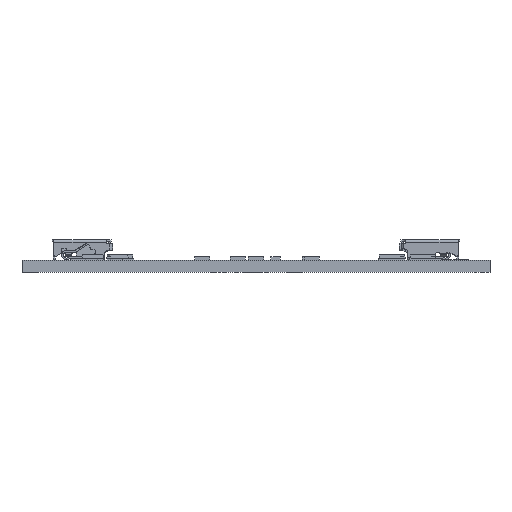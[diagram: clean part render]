
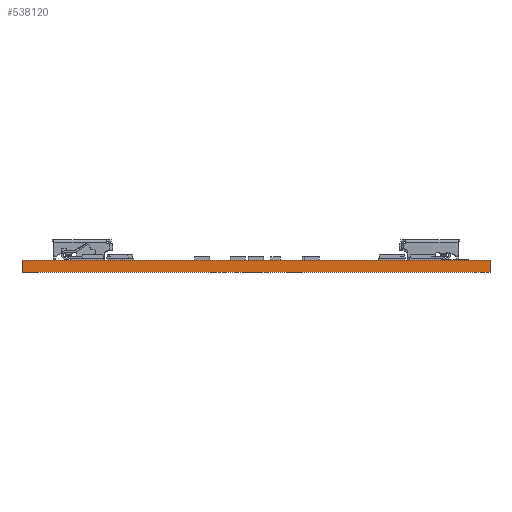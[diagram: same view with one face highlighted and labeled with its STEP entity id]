
A CAD part, front view. The second image highlights one B-rep face of the part: STEP entity #538120.
In plain terms, the highlighted planar face has unit normal (0, -1, 0).
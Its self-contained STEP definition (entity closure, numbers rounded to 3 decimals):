
#537440=CARTESIAN_POINT('',(511.048,98.911,0.));
#537450=VERTEX_POINT('',#537440);
#537500=CARTESIAN_POINT('',(511.048,98.911,0.));
#537510=DIRECTION('',(0.,0.,-1.));
#537520=VECTOR('',#537510,1.);
#537530=LINE('',#537500,#537520);
#537540=CARTESIAN_POINT('',(511.048,98.911,-1.6));
#537550=VERTEX_POINT('',#537540);
#537560=EDGE_CURVE('',#537450,#537550,#537530,.T.);
#537820=CARTESIAN_POINT('',(573.048,98.911,0.));
#537830=DIRECTION('',(0.,1.,0.));
#537840=DIRECTION('',(1.,-0.,0.));
#537850=AXIS2_PLACEMENT_3D('',#537820,#537830,#537840);
#537860=PLANE('',#537850);
#537870=CARTESIAN_POINT('',(573.048,98.911,0.));
#537880=DIRECTION('',(-1.,0.,0.));
#537890=VECTOR('',#537880,0.039);
#537900=LINE('',#537870,#537890);
#537910=CARTESIAN_POINT('',(573.048,98.911,0.));
#537920=VERTEX_POINT('',#537910);
#537930=EDGE_CURVE('',#537920,#537450,#537900,.T.);
#537940=ORIENTED_EDGE('',*,*,#537930,.T.);
#537950=CARTESIAN_POINT('',(573.048,98.911,0.));
#537960=DIRECTION('',(0.,0.,-1.));
#537970=VECTOR('',#537960,1.);
#537980=LINE('',#537950,#537970);
#537990=CARTESIAN_POINT('',(573.048,98.911,-1.6));
#538000=VERTEX_POINT('',#537990);
#538010=EDGE_CURVE('',#537920,#538000,#537980,.T.);
#538020=ORIENTED_EDGE('',*,*,#538010,.F.);
#538030=CARTESIAN_POINT('',(573.048,98.911,-1.6));
#538040=DIRECTION('',(-1.,0.,0.));
#538050=VECTOR('',#538040,0.039);
#538060=LINE('',#538030,#538050);
#538070=EDGE_CURVE('',#538000,#537550,#538060,.T.);
#538080=ORIENTED_EDGE('',*,*,#538070,.F.);
#538090=ORIENTED_EDGE('',*,*,#537560,.T.);
#538100=EDGE_LOOP('',(#538090,#538080,#538020,#537940));
#538110=FACE_OUTER_BOUND('',#538100,.T.);
#538120=ADVANCED_FACE('',(#538110),#537860,.F.);
